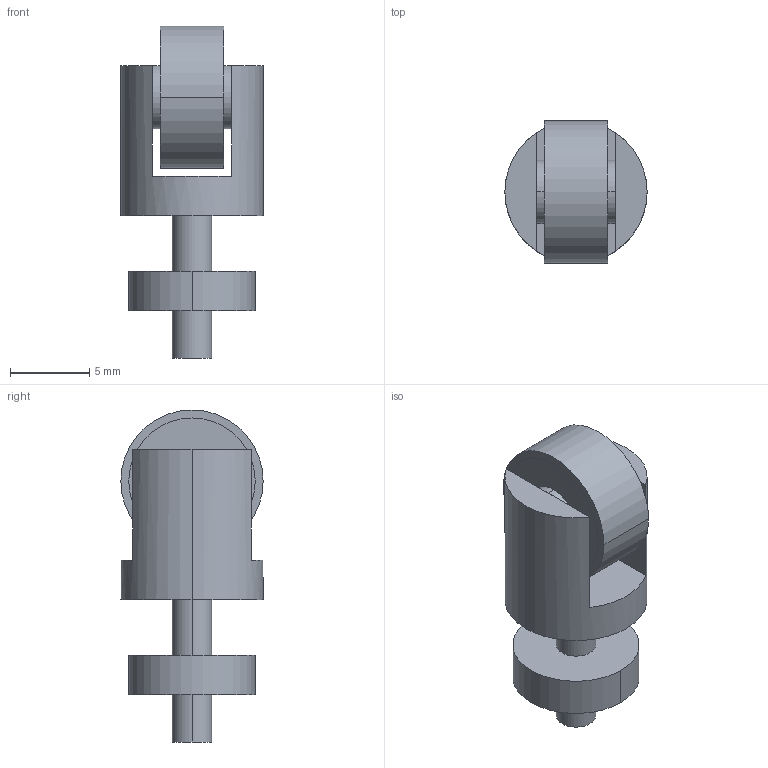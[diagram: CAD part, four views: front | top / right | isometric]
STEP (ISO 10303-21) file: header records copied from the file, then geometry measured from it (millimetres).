
FILE_DESCRIPTION (( 'STEP AP203' ), '1' );
FILE_NAME ('tr-s601.STEP', '2016-10-07T07:02:28', ( '' ), ( '' ), 'SwSTEP 2.0', 'SolidWorks 2014', '' );
FILE_SCHEMA (( 'CONFIG_CONTROL_DESIGN' ));
Length unit declared in the file: millimetre
Products named in the file (4): tr-s601_nut; tr-s601; tr-s601_outerring
Assembly tree (3 placements, depth 2):
  tr-s601
    tr-s601
    tr-s601_outerring
    tr-s601_nut
Bounding box: 9 x 9 x 21 mm (x, y, z)
Volume: 731 mm3; surface area: 1073.9 mm2
Topology: 3 solids, 3 shells, 31 faces, 68 edges, 44 vertices
Faces by surface type: cylinder 18, plane 13
Entity records: 1296 total; most frequent: DIRECTION 182, CARTESIAN_POINT 149, ORIENTED_EDGE 136, AXIS2_PLACEMENT_3D 77, EDGE_CURVE 68, VERTEX_POINT 44, CIRCLE 40, EDGE_LOOP 38
